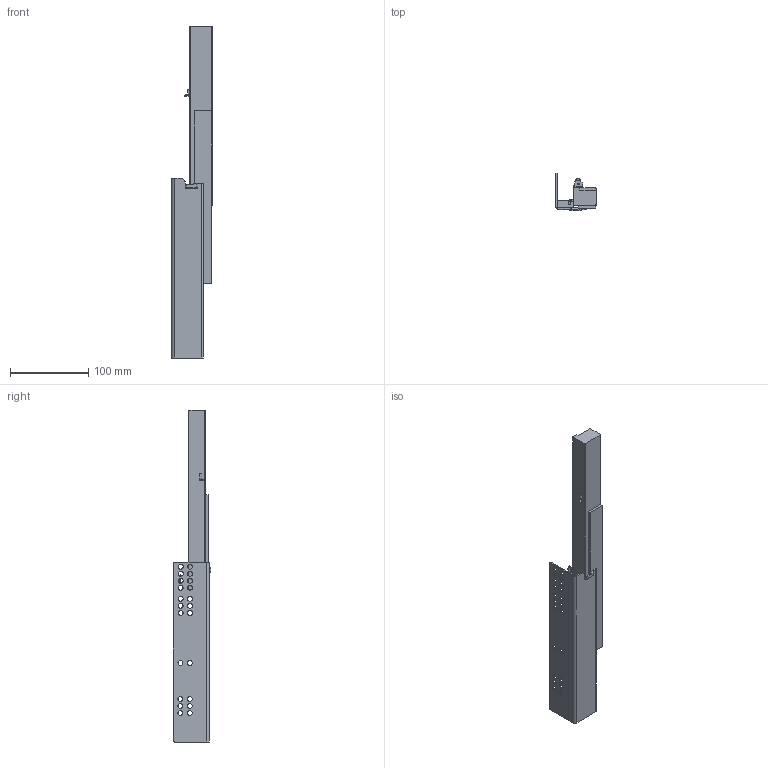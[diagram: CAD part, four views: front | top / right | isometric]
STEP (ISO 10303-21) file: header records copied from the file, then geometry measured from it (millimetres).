
FILE_DESCRIPTION (( 'STEP AP203' ), '1' );
FILE_NAME ('TS10250H-L-DTC3D-open.STEP', '2021-07-09T02:52:37', ( 'df' ), ( 'Microsoft' ), 'SwSTEP 2.0', 'SolidWorks 2018', '' );
FILE_SCHEMA (( 'CONFIG_CONTROL_DESIGN' ));
Length unit declared in the file: millimetre
Products named in the file (1): TS10250H-L-DTC3D-open
Bounding box: 51.73 x 48 x 424.3 mm (x, y, z)
Volume: 263155.1 mm3; surface area: 74603.6 mm2
Topology: 1 solids, 1 shells, 283 faces, 788 edges, 514 vertices
Faces by surface type: plane 115, cylinder 101, bspline 47, torus 16, sphere 4
Entity records: 10839 total; most frequent: CARTESIAN_POINT 3586, ORIENTED_EDGE 1568, DIRECTION 1382, EDGE_CURVE 784, VERTEX_POINT 514, AXIS2_PLACEMENT_3D 474, LINE 434, VECTOR 434
